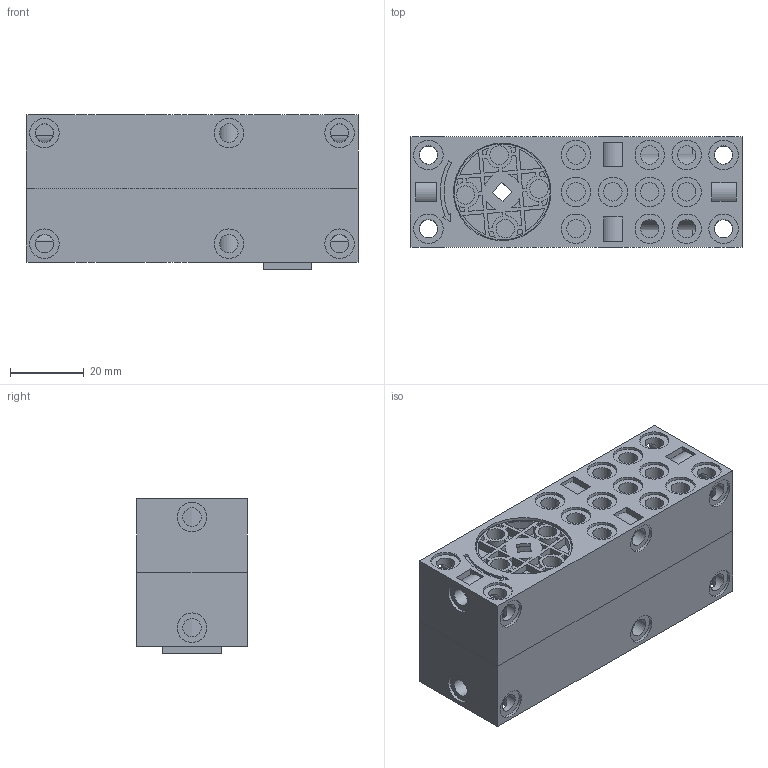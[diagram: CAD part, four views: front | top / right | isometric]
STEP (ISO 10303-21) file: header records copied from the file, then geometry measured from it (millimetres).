
FILE_DESCRIPTION(/* description */ (''),/* implementation_level */ '2;1');
FILE_NAME(/* name */ '修改.stp',/* time_stamp */ '2019-07-27T12:50:20+08:00',/* author */ (''),/* organization */ (''),/* preprocessor_version */ 'ST-DEVELOPER v16',/* originating_system */ 'SIEMENS PLM Software NX 11.0',/* authorisation */ '');
FILE_SCHEMA (('AUTOMOTIVE_DESIGN { 1 0 10303 214 3 1 1 1 }'));
Products named in the file (1): 130 齿轮箱
Bounding box: 90 x 30 x 41.95 mm (x, y, z)
Volume: 54311.6 mm3; surface area: 64769.8 mm2
Topology: 15 solids, 15 shells, 3135 faces, 9058 edges, 6136 vertices
Faces by surface type: plane 1388, cylinder 1348, extrusion 355, cone 28, torus 16
Full cylindrical faces by diameter (mm): 1 x2, 1.5 x2, 1.6 x4, 2 x3, 2.2 x6, 2.5 x4, 3 x8, 5 x62, 6 x2, 6.15 x2, 6.2 x1, 7 x5, 8 x39, 9 x5, 12 x1, 14 x2, 16 x1, 16.6 x1, 18.8 x1, 26 x2, 26.4 x2, 26.9 x1, 27.1 x1, 27.2 x1, 27.4 x1
Entity records: 119252 total; most frequent: CARTESIAN_POINT 28646, ORIENTED_EDGE 17580, DIRECTION 14536, EDGE_CURVE 8790, VERTEX_POINT 6052, AXIS2_PLACEMENT_3D 5062, VECTOR 4412, LINE 4057
